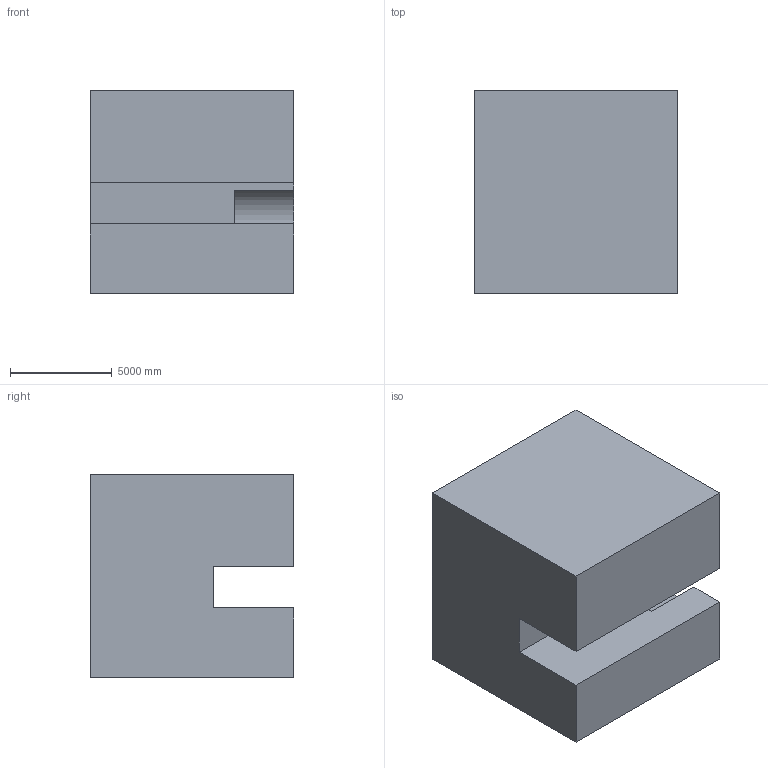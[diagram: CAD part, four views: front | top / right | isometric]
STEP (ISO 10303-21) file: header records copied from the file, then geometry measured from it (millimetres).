
FILE_DESCRIPTION (( 'STEP AP203' ), '1' );
FILE_NAME ('1176.STEP', '2022-08-18T13:03:34', ( 'user' ), ( '' ), 'SwSTEP 2.0', 'SolidWorks 2021', '' );
FILE_SCHEMA (( 'CONFIG_CONTROL_DESIGN' ));
Length unit declared in the file: centimetre
Products named in the file (1): 1176
Bounding box: 10000 x 10000 x 10000 mm (x, y, z)
Volume: 909503678753.7 mm3; surface area: 669407133.1 mm2
Topology: 1 solids, 1 shells, 13 faces, 33 edges, 22 vertices
Faces by surface type: plane 11, cylinder 2
Entity records: 468 total; most frequent: CARTESIAN_POINT 69, ORIENTED_EDGE 66, DIRECTION 65, EDGE_CURVE 33, VECTOR 29, LINE 29, VERTEX_POINT 22, AXIS2_PLACEMENT_3D 18
